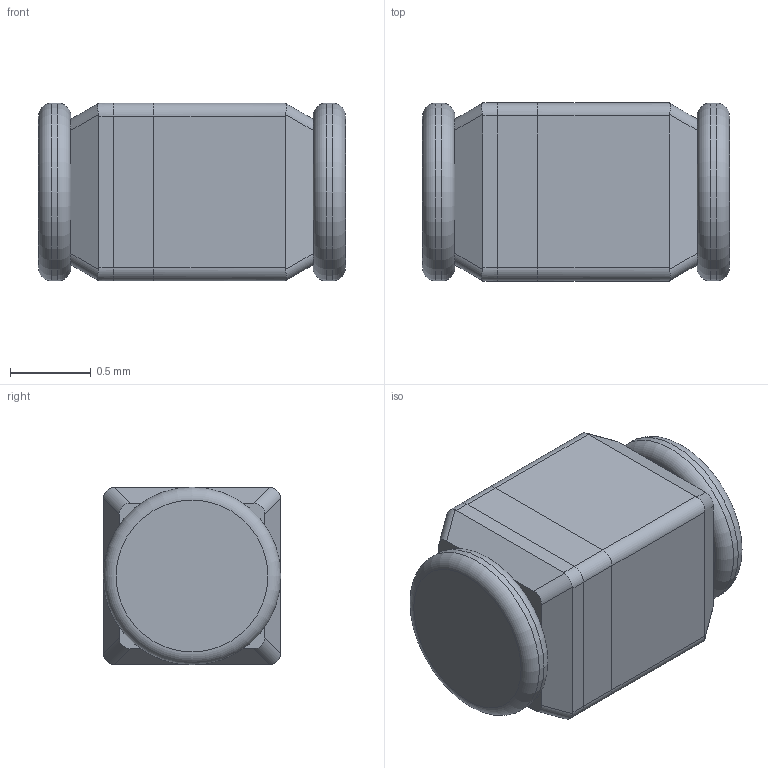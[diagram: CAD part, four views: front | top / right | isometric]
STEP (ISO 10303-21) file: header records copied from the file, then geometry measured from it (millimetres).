
FILE_DESCRIPTION(/* description */ ('Unknown'),/* implementation_level */ '2;1');
FILE_NAME(/* name */ 'MICRO-MELF',/* time_stamp */ '2023-10-06T15:00:27+08:00',/* author */ ('Unknown'),/* organization */ ('Unknown'),/* preprocessor_version */ 'ST-DEVELOPER v18.104',/* originating_system */ 'Solid Edge',/* authorisation */ 'Unknown');
FILE_SCHEMA (('AUTOMOTIVE_DESIGN {1 0 10303 214 3 1 1}'));
Length unit declared in the file: millimetre
Products named in the file (1): MICRO-MELF
Bounding box: 1.9 x 1.1 x 1.1 mm (x, y, z)
Volume: 2.1 mm3; surface area: 17.6 mm2
Topology: 5 solids, 5 shells, 56 faces, 136 edges, 90 vertices
Faces by surface type: plane 30, cylinder 22, torus 4
Full cylindrical faces by diameter (mm): 1.1 x2
Entity records: 1663 total; most frequent: DIRECTION 298, CARTESIAN_POINT 273, ORIENTED_EDGE 256, EDGE_CURVE 128, AXIS2_PLACEMENT_3D 113, VERTEX_POINT 88, LINE 72, VECTOR 72
